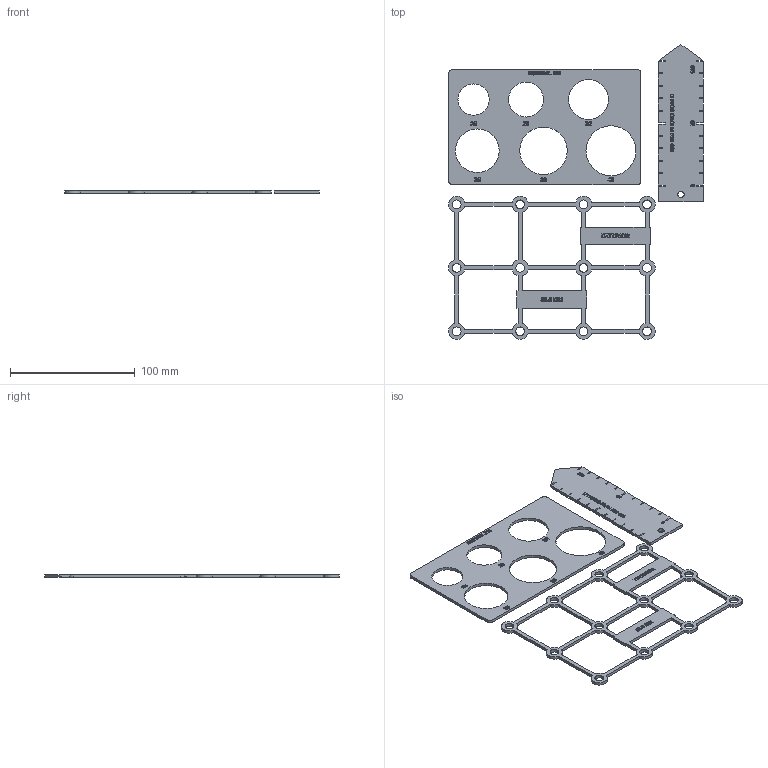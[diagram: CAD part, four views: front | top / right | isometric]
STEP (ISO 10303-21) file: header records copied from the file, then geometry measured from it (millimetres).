
FILE_DESCRIPTION(('Open CASCADE Model'),'2;1');
FILE_NAME('Open CASCADE Shape Model','2026-07-27T22:43:16',('Author'),( 'Open CASCADE'),'Open CASCADE STEP processor 7.9','Open CASCADE 7.9' ,'Unknown');
FILE_SCHEMA(('AUTOMOTIVE_DESIGN { 1 0 10303 214 1 1 1 1 }'));
Length unit declared in the file: millimetre
Products named in the file (4): Open CASCADE STEP translator 7.9 1; Open CASCADE STEP translator 7.9 1.1; Open CASCADE STEP translator 7.9 1.2; Open CASCADE STEP translator 7.9 1.3
Assembly tree (3 placements, depth 2):
  Open CASCADE STEP translator 7.9 1
    Open CASCADE STEP translator 7.9 1.1
    Open CASCADE STEP translator 7.9 1.2
    Open CASCADE STEP translator 7.9 1.3
Bounding box: 204 x 236 x 2.4 mm (x, y, z)
Volume: 42326.1 mm3; surface area: 44594 mm2
Topology: 3 solids, 3 shells, 1241 faces, 3465 edges, 2310 vertices
Faces by surface type: extrusion 605, plane 579, cylinder 57
Full cylindrical faces by diameter (mm): 5 x1, 7 x12, 25 x1, 28 x1, 32 x1, 35 x1, 38 x1, 40 x1
Entity records: 95425 total; most frequent: CARTESIAN_POINT 30941, DIRECTION 9467, VECTOR 7863, LINE 7258, ORIENTED_EDGE 6930, PCURVE 6930, DEFINITIONAL_REPRESENTATION 6930, B_SPLINE_CURVE_WITH_KNOTS 3514
